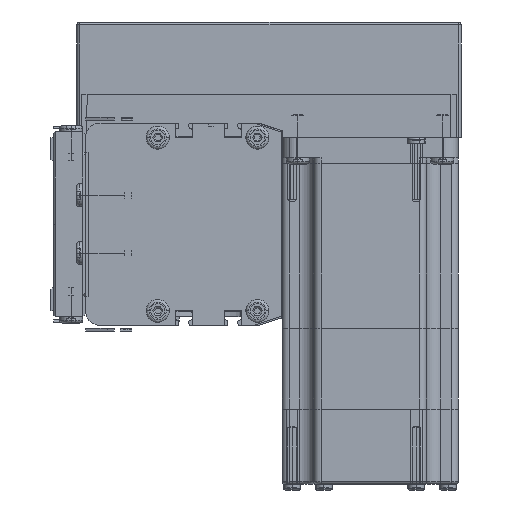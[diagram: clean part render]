
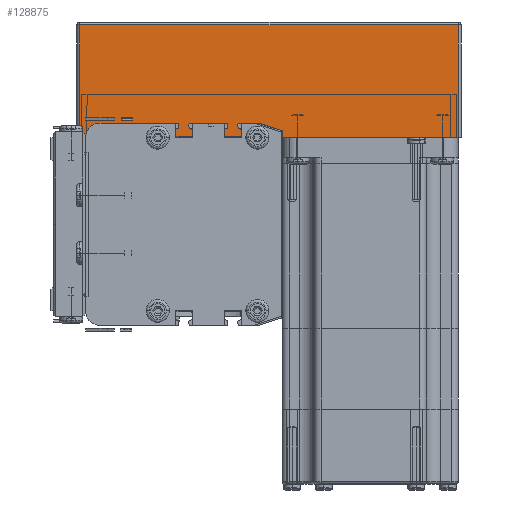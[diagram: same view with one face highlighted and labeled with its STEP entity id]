
A CAD part, left-side view. The second image highlights one B-rep face of the part: STEP entity #128875.
In plain terms, the highlighted planar face has unit normal (-1, 0, 0) as drawn and (0, 1, 0) by its records, which use the part's own axes.
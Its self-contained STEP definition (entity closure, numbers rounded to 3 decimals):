
#13144 = FACE_OUTER_BOUND ( 'NONE', #128929, .T. ) ;
#13146 = PLANE ( 'NONE',  #13252 ) ;
#13246 = DIRECTION ( 'NONE',  ( 0., 0., -1. ) ) ;
#13248 = DIRECTION ( 'NONE',  ( 0., -1., 0. ) ) ;
#13250 = CARTESIAN_POINT ( 'NONE',  ( 0., 62., 40. ) ) ;
#13252 = AXIS2_PLACEMENT_3D ( 'NONE', #13250, #13248, #13246 ) ;
#13258 = CARTESIAN_POINT ( 'NONE',  ( 0., 62., 39. ) ) ;
#13260 = LINE ( 'NONE', #13258, #13458 ) ;
#13261 = CARTESIAN_POINT ( 'NONE',  ( 1., 62., 39. ) ) ;
#13268 = CARTESIAN_POINT ( 'NONE',  ( 132., 62., 39. ) ) ;
#13423 = DIRECTION ( 'NONE',  ( 0., 0., 1. ) ) ;
#13425 = VECTOR ( 'NONE', #13423, 1000. ) ;
#13427 = CARTESIAN_POINT ( 'NONE',  ( 1., 62., 40. ) ) ;
#13438 = LINE ( 'NONE', #13427, #13425 ) ;
#13457 = DIRECTION ( 'NONE',  ( 1., 0., 0. ) ) ;
#13458 = VECTOR ( 'NONE', #13457, 1000. ) ;
#13822 = VECTOR ( 'NONE', #13837, 1000. ) ;
#13833 = LINE ( 'NONE', #13838, #13822 ) ;
#13837 = DIRECTION ( 'NONE',  ( 0., 0., -1. ) ) ;
#13838 = CARTESIAN_POINT ( 'NONE',  ( 132., 62., 40. ) ) ;
#53153 = CARTESIAN_POINT ( 'NONE',  ( 1., 62., 0. ) ) ;
#61786 = CARTESIAN_POINT ( 'NONE',  ( 132., 62., 0. ) ) ;
#119745 = EDGE_CURVE ( 'NONE', #123825, #121616, #137513, .T. ) ;
#121616 = VERTEX_POINT ( 'NONE', #53153 ) ;
#123825 = VERTEX_POINT ( 'NONE', #61786 ) ;
#128875 = ADVANCED_FACE ( 'NONE', ( #13144 ), #13146, .F. ) ;
#128876 = ORIENTED_EDGE ( 'NONE', *, *, #128976, .T. ) ;
#128877 = ORIENTED_EDGE ( 'NONE', *, *, #128884, .T. ) ;
#128878 = VERTEX_POINT ( 'NONE', #13261 ) ;
#128882 = VERTEX_POINT ( 'NONE', #13268 ) ;
#128884 = EDGE_CURVE ( 'NONE', #128878, #128882, #13260, .T. ) ;
#128888 = EDGE_CURVE ( 'NONE', #121616, #128878, #13438, .T. ) ;
#128929 = EDGE_LOOP ( 'NONE', ( #128877, #128876, #128986, #128987 ) ) ;
#128976 = EDGE_CURVE ( 'NONE', #128882, #123825, #13833, .T. ) ;
#128986 = ORIENTED_EDGE ( 'NONE', *, *, #119745, .T. ) ;
#128987 = ORIENTED_EDGE ( 'NONE', *, *, #128888, .T. ) ;
#137510 = DIRECTION ( 'NONE',  ( -1., 0., 0. ) ) ;
#137511 = VECTOR ( 'NONE', #137510, 1000. ) ;
#137512 = CARTESIAN_POINT ( 'NONE',  ( 0., 62., 0. ) ) ;
#137513 = LINE ( 'NONE', #137512, #137511 ) ;
